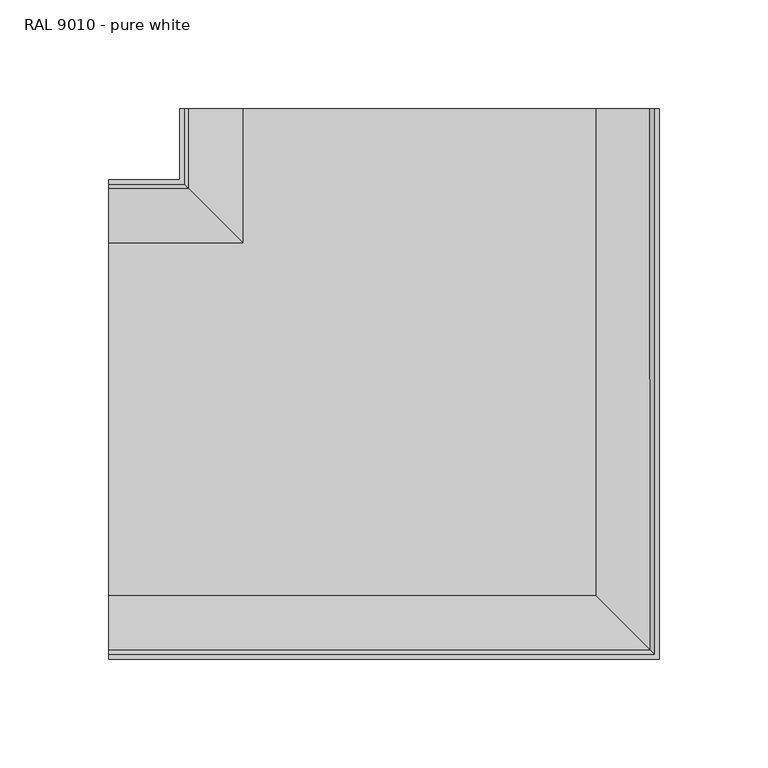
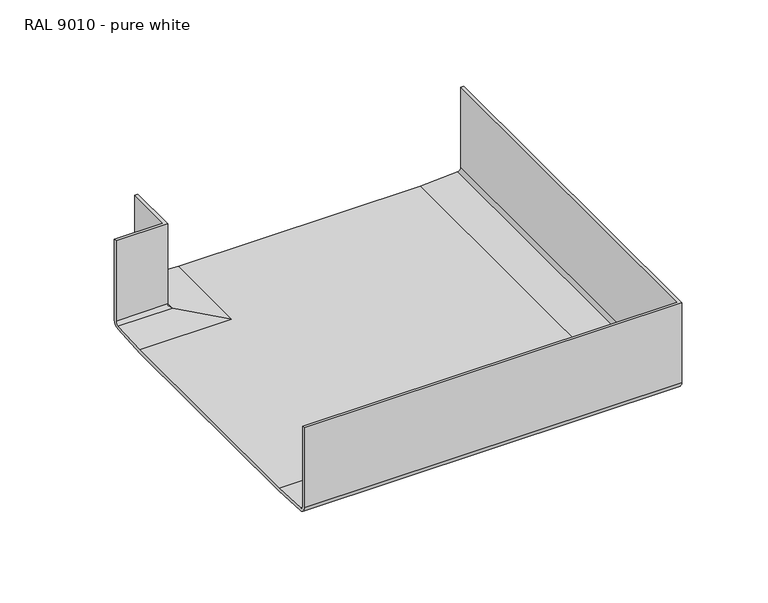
"""IFC4 building model written with IfcOpenShell, lengths in millimetres: cable carrier fitting geometry, Electrical_Installations_Hager_GBD-Flat-Corner-Vertical-Inside-And-Outside-Bend-Curved : RAL 9010 - pure white."""

from ifc_helpers import new_model, si_unit, frame, origin, place, context, project, spatial, polyline, circle_curve, ellipse_curve, source, transform, mapped, element, save
from ifc_brep_helpers import plane_surface, cylinder_surface, revolved_surface, advanced_brep


def ral_9010_pure_white_964a6856(model_context):
    return source(origin(), model_context, "Body", "AdvancedBrep", [
        advanced_brep(
        [(-142.5, 79.8133024, -34.957916), (-142.5, -79.8629789, -34.957916), (-142.5, -105.9370768, -33.406396), (-142.5, -110.0248383, -29.0681648), (-142.5, -110.0248383, 27.521231), (-142.5, -108.0727353, 27.521231), (-142.5, -108.0727353, -29.0681648), (-142.5, -105.9329395, -31.4049977), (-142.5, -80.8540421, -32.926666), (-142.5, 80.8043655, -32.926666), (-142.5, 105.819149, -31.4097682), (-142.5, 108.0139434, -29.0681648), (-142.5, 108.0139434, 27.6254199), (-142.5, 109.9751617, 27.6254199), (-142.5, 109.9751617, -29.0681648), (-142.5, 106.011084, -33.3972636), (-79.8133024, 79.8133024, -34.957916), (-79.8133024, 142.5, -34.957916), (79.8629789, 142.5, -34.957916), (79.8629789, -79.8629789, -34.957916), (105.9370768, -105.9370768, -33.406396), (110.0248383, -110.0248383, -29.0681648), (110.0248383, -110.0248383, 27.521231), (110.0248383, 142.5, 27.521231), (108.0727353, 142.5, 27.521231), (108.0727353, -108.0727353, 27.521231), (108.0727353, -108.0727353, -29.0681648), (105.9329395, -105.9329395, -31.4049977), (80.8540421, -80.8540421, -32.926666), (80.8540421, 142.5, -32.926666), (-80.8043655, 142.5, -32.926666), (-80.8043655, 80.8043655, -32.926666), (-105.819149, 105.819149, -31.4097682), (-108.0139434, 108.0139434, -29.0681648), (-108.0139434, 108.0139434, 27.6254199), (-108.0139434, 142.5, 27.6254199), (-109.9751617, 142.5, 27.6254199), (-109.9751617, 109.9751617, 27.6254199), (-109.9751617, 109.9751617, -29.0681648), (-106.011084, 106.011084, -33.3972636), (-105.8874003, 142.5, -33.406396), (-109.9751617, 142.5, -29.0681648), (-108.0139434, 142.5, -29.0681648), (-105.8741476, 142.5, -31.4049977), (105.8688255, 142.5, -31.4097682), (108.0727353, 142.5, -29.0681648), (110.0248383, 142.5, -29.0681648), (106.0607605, 142.5, -33.3972636)],
        [
            (0, 1),
            (1, 2, circle_curve(frame((-142.5, -75.5707654, 257.0450878), z_axis=(-1.0, 0.0, 0.0), x_axis=(0.0, 0.0, 1.0)), 292.0345481)),
            (2, 3, circle_curve(frame((-142.5, -105.6789336, -29.0681648), z_axis=(-1.0, 0.0, 0.0), x_axis=(0.0, 0.0, 1.0)), 4.3459047)),
            (3, 4),
            (4, 5),
            (5, 6),
            (6, 7, circle_curve(frame((-142.5, -105.7268306, -29.0681648), z_axis=(1.0, 0.0, 0.0), x_axis=(0.0, 0.0, 1.0)), 2.3459047)),
            (7, 8, circle_curve(frame((-142.5, -76.3389631, 248.5451055), z_axis=(1.0, 0.0, 0.0), x_axis=(0.0, 0.0, 1.0)), 281.5079822)),
            (8, 9),
            (9, 10, circle_curve(frame((-142.5, 76.2892866, 248.5451055), z_axis=(1.0, 0.0, 0.0), x_axis=(0.0, 0.0, 1.0)), 281.5079822)),
            (10, 11, circle_curve(frame((-142.5, 105.6680387, -29.0681648), z_axis=(1.0, 0.0, 0.0), x_axis=(0.0, 0.0, 1.0)), 2.3459047)),
            (11, 12),
            (12, 13),
            (13, 14),
            (14, 15, circle_curve(frame((-142.5, 105.629257, -29.0681648), z_axis=(-1.0, 0.0, 0.0), x_axis=(0.0, 0.0, 1.0)), 4.3459047)),
            (15, 0, circle_curve(frame((-142.5, 75.5210889, 257.0450878), z_axis=(-1.0, 0.0, 0.0), x_axis=(0.0, 0.0, 1.0)), 292.0345481)),
            (0, 16),
            (16, 17),
            (17, 18),
            (18, 19),
            (19, 1),
            (19, 20, ellipse_curve(frame((75.5707654, -75.5707654, 257.0450878), z_axis=(-0.7071067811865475, -0.7071067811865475, 0.0), x_axis=(-0.7071067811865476, 0.7071067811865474, 0.0)), 412.9992186, 292.0345481)),
            (20, 2),
            (20, 21, ellipse_curve(frame((105.6789336, -105.6789336, -29.0681648), z_axis=(-0.7071067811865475, -0.7071067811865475, 0.0), x_axis=(-0.7071067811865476, 0.7071067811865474, 0.0)), 6.1460374, 4.3459047)),
            (21, 3),
            (21, 22),
            (22, 4),
            (22, 23),
            (23, 24),
            (24, 25),
            (25, 5),
            (25, 26),
            (26, 6),
            (26, 27, ellipse_curve(frame((105.7268306, -105.7268306, -29.0681648), z_axis=(0.7071067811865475, 0.7071067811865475, 0.0), x_axis=(0.7071067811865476, -0.7071067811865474, 0.0)), 3.3176103, 2.3459047)),
            (27, 7),
            (27, 28, ellipse_curve(frame((76.3389631, -76.3389631, 248.5451055), z_axis=(0.7071067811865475, 0.7071067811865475, 0.0), x_axis=(0.7071067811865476, -0.7071067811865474, 0.0)), 398.1124064, 281.5079822)),
            (28, 8),
            (28, 29),
            (29, 30),
            (30, 31),
            (31, 9),
            (31, 32, ellipse_curve(frame((-76.2892866, 76.2892866, 248.5451055), z_axis=(0.7071067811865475, 0.7071067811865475, 0.0), x_axis=(0.7071067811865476, -0.7071067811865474, 0.0)), 398.1124064, 281.5079822)),
            (32, 10),
            (32, 33, ellipse_curve(frame((-105.6680387, 105.6680387, -29.0681648), z_axis=(0.7071067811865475, 0.7071067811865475, 0.0), x_axis=(0.7071067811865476, -0.7071067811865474, 0.0)), 3.3176103, 2.3459047)),
            (33, 11),
            (33, 34),
            (34, 12),
            (34, 35),
            (35, 36),
            (36, 37),
            (37, 13),
            (37, 38),
            (38, 14),
            (38, 39, ellipse_curve(frame((-105.629257, 105.629257, -29.0681648), z_axis=(-0.7071067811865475, -0.7071067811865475, 0.0), x_axis=(-0.7071067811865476, 0.7071067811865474, 0.0)), 6.1460374, 4.3459047)),
            (39, 15),
            (39, 16, ellipse_curve(frame((-75.5210889, 75.5210889, 257.0450878), z_axis=(-0.7071067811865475, -0.7071067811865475, 0.0), x_axis=(-0.7071067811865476, 0.7071067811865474, 0.0)), 412.9992186, 292.0345481)),
            (17, 40, circle_curve(frame((-75.5210889, 142.5, 257.0450878), z_axis=(0.0, 1.0, 0.0), x_axis=(0.0, 0.0, 1.0)), 292.0345481)),
            (40, 41, circle_curve(frame((-105.629257, 142.5, -29.0681648), z_axis=(0.0, 1.0, 0.0), x_axis=(0.0, 0.0, 1.0)), 4.3459047)),
            (41, 36),
            (35, 42),
            (42, 43, circle_curve(frame((-105.6680387, 142.5, -29.0681648), z_axis=(0.0, -1.0, 0.0), x_axis=(0.0, 0.0, 1.0)), 2.3459047)),
            (43, 30, circle_curve(frame((-76.2892866, 142.5, 248.5451055), z_axis=(0.0, -1.0, 0.0), x_axis=(0.0, 0.0, 1.0)), 281.5079822)),
            (29, 44, circle_curve(frame((76.3389631, 142.5, 248.5451055), z_axis=(0.0, -1.0, 0.0), x_axis=(0.0, 0.0, 1.0)), 281.5079822)),
            (44, 45, circle_curve(frame((105.7268306, 142.5, -29.0681648), z_axis=(0.0, -1.0, 0.0), x_axis=(0.0, 0.0, 1.0)), 2.3459047)),
            (45, 24),
            (23, 46),
            (46, 47, circle_curve(frame((105.6789336, 142.5, -29.0681648), z_axis=(0.0, 1.0, 0.0), x_axis=(0.0, 0.0, 1.0)), 4.3459047)),
            (47, 18, circle_curve(frame((75.5707654, 142.5, 257.0450878), z_axis=(0.0, 1.0, 0.0), x_axis=(0.0, 0.0, 1.0)), 292.0345481)),
            (47, 20),
            (46, 21),
            (45, 26),
            (44, 27),
            (43, 32),
            (42, 33),
            (41, 38),
            (40, 39),
        ],
        [
            plane_surface(frame((-142.5, 0.0, 0.0), z_axis=(-1.0, 0.0, 0.0), x_axis=(0.0, 0.0, 1.0))),
            plane_surface(frame((-142.5, 79.8133024, -34.957916), z_axis=(0.0, 0.0, -1.0), x_axis=(1.0, 0.0, 0.0))),
            cylinder_surface(frame((-142.5, -75.5707654, 257.0450878), z_axis=(-1.0, 0.0, 0.0), x_axis=(0.0, 0.0, 1.0)), 292.0345481),
            cylinder_surface(frame((-142.5, -105.6789336, -29.0681648), z_axis=(-1.0, 0.0, 0.0), x_axis=(0.0, 0.0, 1.0)), 4.3459047),
            plane_surface(frame((-142.5, -110.0248383, -29.0681648), z_axis=(0.0, -1.0, 0.0), x_axis=(1.0, 0.0, 0.0))),
            plane_surface(frame((-142.5, -110.0248383, 27.521231), z_axis=(0.0, 0.0, 1.0), x_axis=(1.0, 0.0, 0.0))),
            plane_surface(frame((-142.5, -108.0727353, 27.521231), z_axis=(0.0, 1.0, 0.0), x_axis=(1.0, 0.0, 0.0))),
            revolved_surface(polyline([(108.07273534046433, -105.7268306, -26.7222601), (-142.5, -105.7268306, -26.7222601)]), (-142.5, -105.7268306, -29.0681648), (1.0, 0.0, 0.0)),
            revolved_surface(polyline([(357.8469453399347, -76.3389631, 530.0530877), (-205.16901913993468, -76.3389631, 530.0530877)]), (-142.5, -76.3389631, 248.5451055), (1.0, 0.0, 0.0)),
            plane_surface(frame((-142.5, -80.8540421, -32.926666), z_axis=(0.0, 0.0, 1.0), x_axis=(1.0, 0.0, 0.0))),
            revolved_surface(polyline([(205.2186956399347, 76.2892866, 530.0530877), (-357.79726883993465, 76.2892866, 530.0530877)]), (-142.5, 76.2892866, 248.5451055), (1.0, 0.0, 0.0)),
            revolved_surface(polyline([(-103.32213395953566, 105.6680387, -26.7222601), (-142.5, 105.6680387, -26.7222601)]), (-142.5, 105.6680387, -29.0681648), (1.0, 0.0, 0.0)),
            plane_surface(frame((-142.5, 108.0139434, -29.0681648), z_axis=(0.0, -1.0, 0.0), x_axis=(1.0, 0.0, 0.0))),
            plane_surface(frame((-142.5, 108.0139434, 27.6254199), z_axis=(0.0, 0.0, 1.0), x_axis=(1.0, 0.0, 0.0))),
            plane_surface(frame((-142.5, 109.9751617, 27.6254199), z_axis=(0.0, 1.0, 0.0), x_axis=(1.0, 0.0, 0.0))),
            cylinder_surface(frame((-142.5, 105.629257, -29.0681648), z_axis=(-1.0, 0.0, 0.0), x_axis=(0.0, 0.0, 1.0)), 4.3459047),
            cylinder_surface(frame((-142.5, 75.5210889, 257.0450878), z_axis=(-1.0, 0.0, 0.0), x_axis=(0.0, 0.0, 1.0)), 292.0345481),
            plane_surface(frame((0.0, 142.5, 0.0), z_axis=(0.0, 1.0, 0.0), x_axis=(0.0, 0.0, 1.0))),
            cylinder_surface(frame((75.5707654, 0.0, 257.0450878), z_axis=(0.0, -1.0, 0.0), x_axis=(0.0, 0.0, 1.0)), 292.0345481),
            cylinder_surface(frame((105.6789336, 0.0, -29.0681648), z_axis=(0.0, -1.0, 0.0), x_axis=(0.0, 0.0, 1.0)), 4.3459047),
            plane_surface(frame((110.0248383, -110.0248383, -29.0681648), z_axis=(1.0, 0.0, 0.0), x_axis=(0.0, 1.0, 0.0))),
            plane_surface(frame((108.0727353, -108.0727353, 27.521231), z_axis=(-1.0, 0.0, 0.0), x_axis=(0.0, 1.0, 0.0))),
            revolved_surface(polyline([(105.7268306, 142.5, -26.7222601), (105.7268306, -108.07273534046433, -26.7222601)]), (105.7268306, 0.0, -29.0681648), (0.0, 1.0, 0.0)),
            revolved_surface(polyline([(76.3389631, 205.16901913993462, 530.0530877), (76.3389631, -357.8469453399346, 530.0530877)]), (76.3389631, 0.0, 248.5451055), (0.0, 1.0, 0.0)),
            revolved_surface(polyline([(-76.2892866, 357.79726883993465, 530.0530877), (-76.2892866, -205.21869563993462, 530.0530877)]), (-76.2892866, 0.0, 248.5451055), (0.0, 1.0, 0.0)),
            revolved_surface(polyline([(-105.6680387, 142.5, -26.7222601), (-105.6680387, 103.32213395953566, -26.7222601)]), (-105.6680387, 0.0, -29.0681648), (0.0, 1.0, 0.0)),
            plane_surface(frame((-108.0139434, 108.0139434, -29.0681648), z_axis=(1.0, 0.0, 0.0), x_axis=(0.0, 1.0, 0.0))),
            plane_surface(frame((-109.9751617, 109.9751617, 27.6254199), z_axis=(-1.0, 0.0, 0.0), x_axis=(0.0, 1.0, 0.0))),
            cylinder_surface(frame((-105.629257, 0.0, -29.0681648), z_axis=(0.0, -1.0, 0.0), x_axis=(0.0, 0.0, 1.0)), 4.3459047),
            cylinder_surface(frame((-75.5210889, 0.0, 257.0450878), z_axis=(0.0, -1.0, 0.0), x_axis=(0.0, 0.0, 1.0)), 292.0345481),
        ],
        [
            (0, [[1, 2, 3, 4, 5, 6, 7, 8, 9, 10, 11, 12, 13, 14, 15, 16]]),
            (1, [[-1, 17, 18, 19, 20, 21]]),
            (2, [[-2, -21, 22, 23]]),
            (3, [[-3, -23, 24, 25]]),
            (4, [[-4, -25, 26, 27]]),
            (5, [[-5, -27, 28, 29, 30, 31]]),
            (6, [[-6, -31, 32, 33]]),
            (7, [[-7, -33, 34, 35]]),
            (8, [[-8, -35, 36, 37]]),
            (9, [[-9, -37, 38, 39, 40, 41]]),
            (10, [[-10, -41, 42, 43]]),
            (11, [[-11, -43, 44, 45]]),
            (12, [[-12, -45, 46, 47]]),
            (13, [[-13, -47, 48, 49, 50, 51]]),
            (14, [[-14, -51, 52, 53]]),
            (15, [[-15, -53, 54, 55]]),
            (16, [[-16, -55, 56, -17]]),
            (17, [[57, 58, 59, -49, 60, 61, 62, -39, 63, 64, 65, -29, 66, 67, 68, -19]]),
            (18, [[-22, -20, -68, 69]]),
            (19, [[-24, -69, -67, 70]]),
            (20, [[-26, -70, -66, -28]]),
            (21, [[-32, -30, -65, 71]]),
            (22, [[-34, -71, -64, 72]]),
            (23, [[-36, -72, -63, -38]]),
            (24, [[-42, -40, -62, 73]]),
            (25, [[-44, -73, -61, 74]]),
            (26, [[-46, -74, -60, -48]]),
            (27, [[-52, -50, -59, 75]]),
            (28, [[-54, -75, -58, 76]]),
            (29, [[-56, -76, -57, -18]]),
        ],
    ),
    ])


if __name__ == "__main__":
    model = new_model("IFC4")
    model_context = context("Model", 3, world=origin())
    ifc_project = project(units=[si_unit("LENGTHUNIT", "METRE", prefix="MILLI")], contexts=[model_context])
    site = spatial("IfcSite", under=ifc_project)
    building = spatial("IfcBuilding", under=site)
    placement = place(None, origin())
    ral_9010_pure_white_shape = ral_9010_pure_white_964a6856(model_context)
    element("IfcCableCarrierFitting", 1, ObjectType="Electrical_Installations_Hager_GBD-Flat-Corner-Vertical-Inside-And-Outside-Bend-Curved : RAL 9010 - pure white", at=placement, inside=building, context=model_context, shape_type="MappedRepresentation", body=[
        mapped(ral_9010_pure_white_shape, transform((0.0, 0.0, 0.0), x_axis=(1.0, 0.0, 0.0), y_axis=(0.0, 1.0, 0.0), z_axis=(0.0, 0.0, 1.0))),
    ])
    save(model, "model.ifc")
